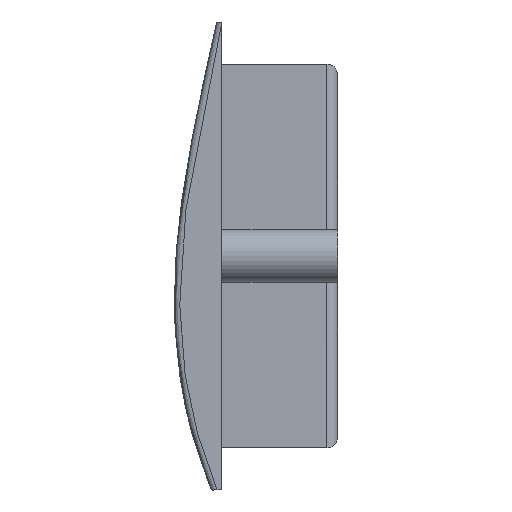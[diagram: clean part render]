
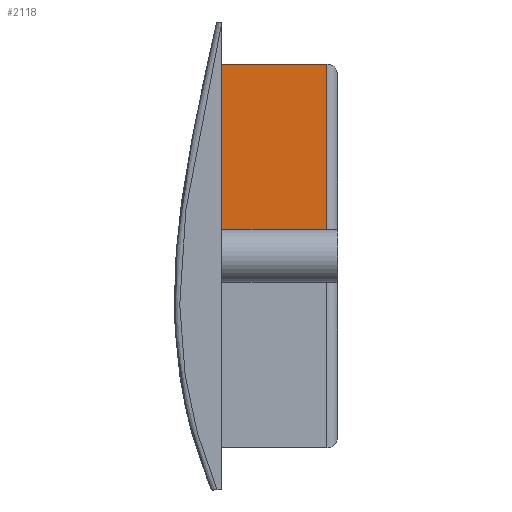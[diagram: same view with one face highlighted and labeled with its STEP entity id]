
A CAD part, left-side view. The second image highlights one B-rep face of the part: STEP entity #2118.
In plain terms, the highlighted planar face has unit normal (-1, 0, 0).
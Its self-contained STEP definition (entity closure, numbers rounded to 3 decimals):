
#169 = VECTOR ( 'NONE', #4766, 1000. ) ;
#203 = CARTESIAN_POINT ( 'NONE',  ( -46.5, 17., 34.541 ) ) ;
#286 = CARTESIAN_POINT ( 'NONE',  ( -46.5, 17., 50.5 ) ) ;
#787 = LINE ( 'NONE', #286, #169 ) ;
#811 = EDGE_CURVE ( 'NONE', #1975, #4936, #2509, .T. ) ;
#953 = VERTEX_POINT ( 'NONE', #203 ) ;
#970 = DIRECTION ( 'NONE',  ( 0., 0., 1. ) ) ;
#1042 = ORIENTED_EDGE ( 'NONE', *, *, #811, .T. ) ;
#1093 = ORIENTED_EDGE ( 'NONE', *, *, #4195, .F. ) ;
#1477 = CARTESIAN_POINT ( 'NONE',  ( -46.5, 7., 50.5 ) ) ;
#1533 = ORIENTED_EDGE ( 'NONE', *, *, #3257, .T. ) ;
#1808 = CARTESIAN_POINT ( 'NONE',  ( -46.5, 17., 50.5 ) ) ;
#1904 = EDGE_LOOP ( 'NONE', ( #1093, #1042, #2465, #1533 ) ) ;
#1948 = VECTOR ( 'NONE', #2718, 1000. ) ;
#1975 = VERTEX_POINT ( 'NONE', #3246 ) ;
#2118 = ADVANCED_FACE ( 'NONE', ( #3328 ), #4796, .T. ) ;
#2237 = DIRECTION ( 'NONE',  ( 0., 0., -1. ) ) ;
#2465 = ORIENTED_EDGE ( 'NONE', *, *, #3931, .F. ) ;
#2509 = LINE ( 'NONE', #1477, #3744 ) ;
#2718 = DIRECTION ( 'NONE',  ( 0., 1., 0. ) ) ;
#2745 = CARTESIAN_POINT ( 'NONE',  ( -46.5, 17., 14. ) ) ;
#3231 = CARTESIAN_POINT ( 'NONE',  ( -46.5, 6., 34.541 ) ) ;
#3246 = CARTESIAN_POINT ( 'NONE',  ( -46.5, 7., 34.541 ) ) ;
#3254 = DIRECTION ( 'NONE',  ( 0., 0., -1. ) ) ;
#3257 = EDGE_CURVE ( 'NONE', #3902, #953, #3772, .T. ) ;
#3328 = FACE_OUTER_BOUND ( 'NONE', #1904, .T. ) ;
#3584 = AXIS2_PLACEMENT_3D ( 'NONE', #4279, #3768, #3254 ) ;
#3744 = VECTOR ( 'NONE', #970, 1000. ) ;
#3746 = LINE ( 'NONE', #3231, #1948 ) ;
#3768 = DIRECTION ( 'NONE',  ( -1., 0., 0. ) ) ;
#3772 = LINE ( 'NONE', #2745, #4011 ) ;
#3902 = VERTEX_POINT ( 'NONE', #1808 ) ;
#3931 = EDGE_CURVE ( 'NONE', #3902, #4936, #787, .T. ) ;
#4011 = VECTOR ( 'NONE', #2237, 1000. ) ;
#4195 = EDGE_CURVE ( 'NONE', #1975, #953, #3746, .T. ) ;
#4279 = CARTESIAN_POINT ( 'NONE',  ( -46.5, 17., 14. ) ) ;
#4411 = CARTESIAN_POINT ( 'NONE',  ( -46.5, 7., 50.5 ) ) ;
#4766 = DIRECTION ( 'NONE',  ( 0., -1., 0. ) ) ;
#4796 = PLANE ( 'NONE',  #3584 ) ;
#4936 = VERTEX_POINT ( 'NONE', #4411 ) ;
